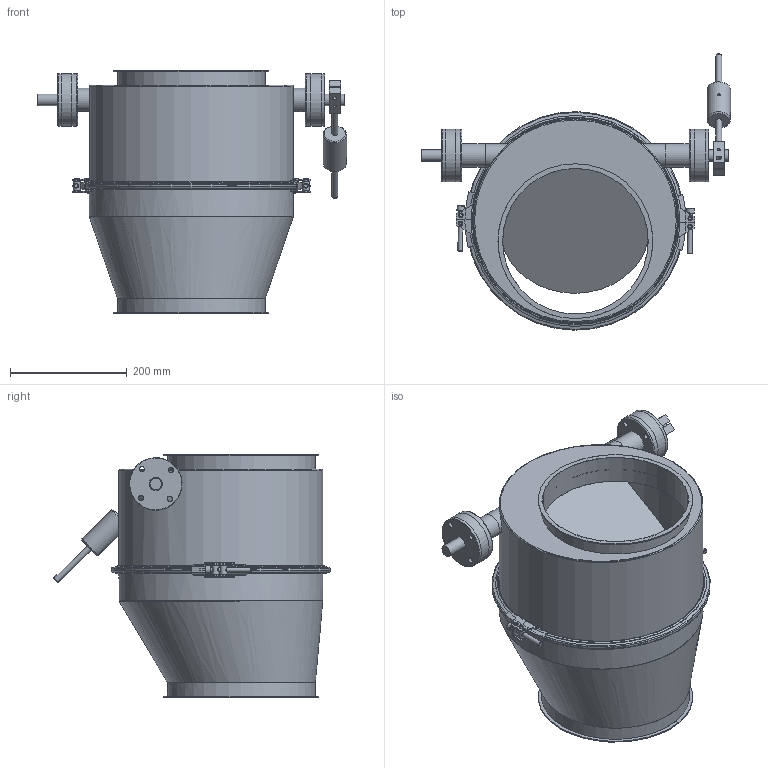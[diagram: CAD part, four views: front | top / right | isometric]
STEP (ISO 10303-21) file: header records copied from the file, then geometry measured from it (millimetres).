
FILE_DESCRIPTION((''),'2;1');
FILE_NAME('U:\Wolfgang\Marcel-3D\fertig\Kapitel 8\2521175.stp','2012-01-13T11:14:49',('iwienholt'),(''),'Autodesk Inventor 2010','Autodesk Inventor 2010','');
FILE_SCHEMA(('AUTOMOTIVE_DESIGN { 1 0 10303 214 1 1 1 1 }'));
Length unit declared in the file: millimetre
Products named in the file (14): 2521175; Wellenende D20; Buchse D20 90-50; LagerdeckelD20; PendelkugellagerD20; Hebel D20; WelleDN250; 3512056; 3522055-1; Verschluss b=374; Verschlussrolle; VerschlussrolleGewinde; ISO 4762 M8 x 70; 2511175-1
Assembly tree (21 placements, depth 3):
  2521175
    Wellenende D20  x2
      Buchse D20 90-50
      LagerdeckelD20
      PendelkugellagerD20
    Hebel D20
    WelleDN250
    3512056
      3522055-1  x2
      Verschluss b=374  x4
      Verschlussrolle  x2
      VerschlussrolleGewinde  x2
      ISO 4762 M8 x 70  x2
    2511175-1
Bounding box: 529 x 473 x 415 mm (x, y, z)
Volume: 1140156.5 mm3; surface area: 1981990.4 mm2
Topology: 23 solids, 23 shells, 562 faces, 1397 edges, 927 vertices
Faces by surface type: cylinder 186, plane 163, bspline 118, cone 72, torus 23
Full cylindrical faces by diameter (mm): 5 x8, 6 x2, 8 x10, 9 x1, 10 x2, 12 x4, 13 x2, 20 x7, 20.5 x2, 23 x2, 30 x2, 40 x9, 47 x2, 90 x6, 249 x2, 249.2 x1, 252.8 x3, 253 x3, 264.8 x2, 265 x2, 345 x1, 345.2 x1, 348.8 x2, 349 x2, 360.8 x1, 361 x1
Entity records: 10655 total; most frequent: CARTESIAN_POINT 4731, DIRECTION 1170, ORIENTED_EDGE 974, AXIS2_PLACEMENT_3D 505, EDGE_CURVE 487, EDGE_LOOP 442, VERTEX_POINT 377, FACE_OUTER_BOUND 265
